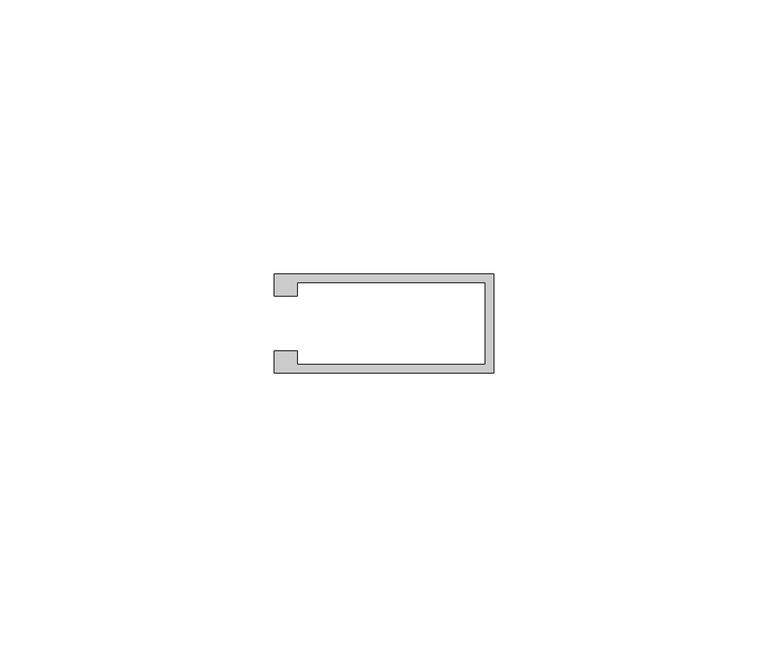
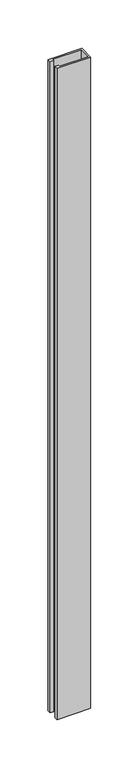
"""IFC4 building model written with IfcOpenShell, lengths in millimetres: member geometry, Прямоугольный импост : 11-AMG-1-Профиль 40Х18 Верх П."""

from ifc_helpers import new_model, si_unit, frame, origin, place, context, project, spatial, polyline, outline, extrude, source, transform, mapped, element, save


def member_da22f294(model_context):
    return source(origin(), model_context, "Body", "SweptSolid", [
        extrude(outline(polyline([(-40.0, 5.0), (-40.0, 9.0), (0.0, 9.0), (0.0, -9.0), (-40.0, -9.0), (-40.0, -5.0), (-35.8552307, -5.0), (-35.8552307, -7.5), (-1.5, -7.5), (-1.5, 7.5), (-35.8552307, 7.5), (-35.8552307, 5.0), (-40.0, 5.0)])), frame((0.0, 0.0, -820.0), z_axis=(0.0, 0.0, 1.0), x_axis=(1.0, 0.0, 0.0)), (0.0, 0.0, 1.0), 820.0),
    ])


if __name__ == "__main__":
    model = new_model("IFC4")
    model_context = context("Model", 3, world=origin())
    ifc_project = project(units=[si_unit("LENGTHUNIT", "METRE", prefix="MILLI")], contexts=[model_context])
    site = spatial("IfcSite", under=ifc_project)
    building = spatial("IfcBuilding", under=site)
    placement = place(None, origin())
    member_shape = member_da22f294(model_context)
    element("IfcMember", 1, ObjectType="Прямоугольный импост : 11-AMG-1-Профиль 40Х18 Верх П", at=placement, inside=building, context=model_context, shape_type="MappedRepresentation", body=[
        mapped(member_shape, transform((0.0, 0.0, 0.0), x_axis=(1.0, 0.0, 0.0), y_axis=(0.0, 1.0, 0.0), z_axis=(0.0, 0.0, 1.0))),
    ])
    save(model, "model.ifc")
